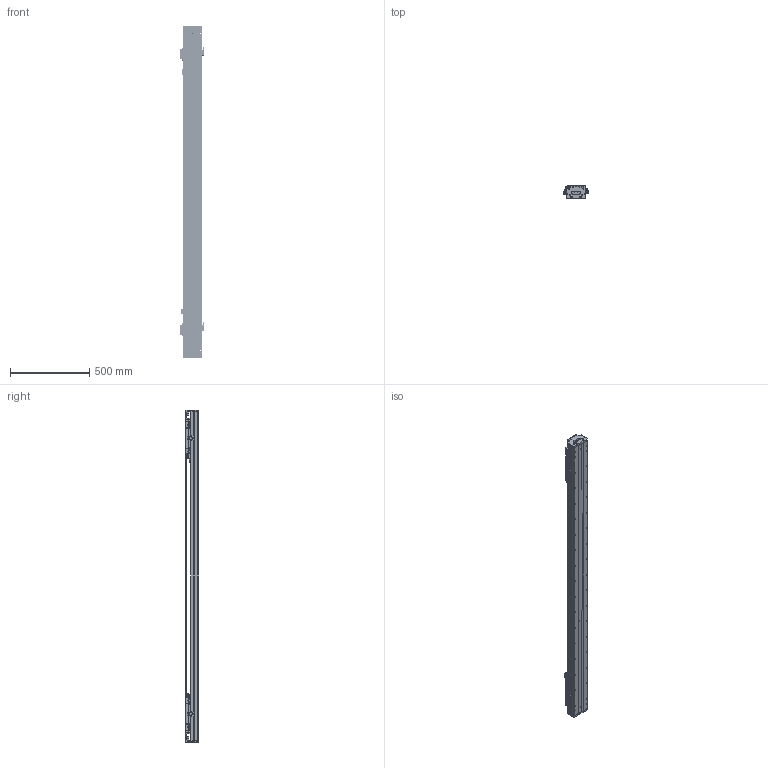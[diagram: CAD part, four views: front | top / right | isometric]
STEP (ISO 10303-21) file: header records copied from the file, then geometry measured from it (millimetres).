
FILE_DESCRIPTION (( 'STEP AP203' ), '1' );
FILE_NAME ('DKW120-2×B3-W060（T1460-L005-0.2）.STEP', '2021-09-29T01:18:40', ( '微软用户' ), ( '微软中国' ), 'SwSTEP 2.0', 'SolidWorks 2018', '' );
FILE_SCHEMA (( 'CONFIG_CONTROL_DESIGN' ));
Length unit declared in the file: millimetre
Products named in the file (22): DKW120 单轴模组-拉钢带组件; MSB15-DG-U; DKW-DG-XJ-Z-00 笢潔滅袉砎蝶; BKMA01-W060-TRL280; 06652-0001-001-00 DKW120傷啣; DKW-GYP-ZJ-00 笢潔嫖萇覜茼え; RUS嫖掑喜; 06652-0001-004-00 DKW120嶺輸菜輸; DKW-KGZ-ZJ-00 中间光电开关支架; Ru2; DKW-HXJ-JY-00 遣喳砎蝶; DKW120-2×B3-W060（T1460-L005-0.2）; DKW119-RU-DTJ-00 RU2黍杅芛盓殤; 10940-0001-004-00 120詩湍裔啣; 10980-0001-003-00 嫖萇羲壽嘐隅釱; 砎蝶猾沭; DKW-SG-GYP-H-00 嫖萇覜茼え; 12160-0000-003-00 DKW120詩湍嶺輸; EE_SX674A; 12160-0000-004-00  DKW120詩湍揤輸; DKW120-B15-T300-DZ-00 菁釱; B3-W060_00
Assembly tree (41 placements, depth 3):
  DKW120-2×B3-W060（T1460-L005-0.2）
    DKW120-B15-T300-DZ-00 菁釱
    MSB15-DG-U  x2
    DKW120 单轴模组-拉钢带组件
      06652-0001-001-00 DKW120傷啣  x2
      06652-0001-004-00 DKW120嶺輸菜輸  x4
      DKW-HXJ-JY-00 遣喳砎蝶  x4
      10940-0001-004-00 120詩湍裔啣
      砎蝶猾沭  x2
      12160-0000-003-00 DKW120詩湍嶺輸  x2
      12160-0000-004-00  DKW120詩湍揤輸  x2
    BKMA01-W060-TRL280
    RUS嫖掑喜
    Ru2  x2
    DKW119-RU-DTJ-00 RU2黍杅芛盓殤  x2
    10980-0001-003-00 嫖萇羲壽嘐隅釱  x2
    DKW-SG-GYP-H-00 嫖萇覜茼え  x2
    EE_SX674A  x5
    B3-W060_00  x2
    DKW-DG-XJ-Z-00 笢潔滅袉砎蝶
    DKW-GYP-ZJ-00 笢潔嫖萇覜茼え
    DKW-KGZ-ZJ-00 中间光电开关支架
Bounding box: 154.1 x 84 x 2096 mm (x, y, z)
Volume: 8237883.4 mm3; surface area: 3106265.7 mm2
Topology: 60 solids, 158 shells, 6644 faces, 18058 edges, 11627 vertices
Faces by surface type: plane 3626, cylinder 2004, cone 520, bspline 494
Entity records: 144978 total; most frequent: CARTESIAN_POINT 49594, ORIENTED_EDGE 19757, DIRECTION 18418, EDGE_CURVE 9919, VERTEX_POINT 6509, AXIS2_PLACEMENT_3D 6194, LINE 6030, VECTOR 6030
